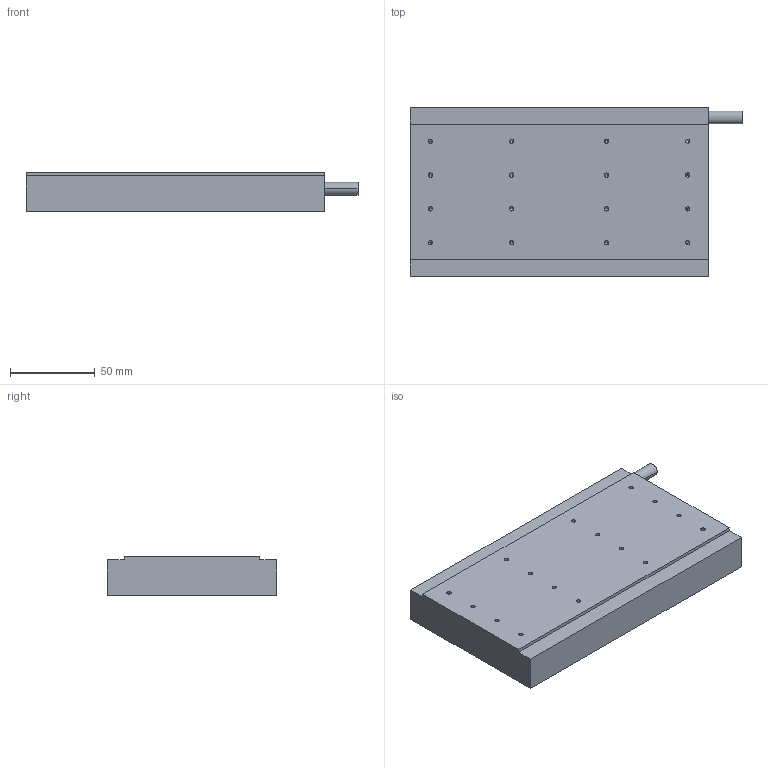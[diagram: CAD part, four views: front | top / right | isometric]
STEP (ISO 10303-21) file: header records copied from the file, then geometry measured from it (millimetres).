
FILE_DESCRIPTION (( 'STEP AP214' ), '1' );
FILE_NAME ('D-CJM080D.STEP', '2025-09-05T11:20:25', ( '' ), ( '' ), 'SwSTEP 2.0', 'SolidWorks 2016', '' );
FILE_SCHEMA (( 'AUTOMOTIVE_DESIGN' ));
Length unit declared in the file: millimetre
Products named in the file (1): D-CJM080D
Bounding box: 196 x 100 x 23.2 mm (x, y, z)
Volume: 401545.8 mm3; surface area: 49391.1 mm2
Topology: 1 solids, 1 shells, 101 faces, 246 edges, 128 vertices
Faces by surface type: cone 48, cylinder 42, plane 11
Entity records: 3078 total; most frequent: DIRECTION 502, CARTESIAN_POINT 436, ORIENTED_EDGE 412, EDGE_CURVE 206, AXIS2_PLACEMENT_3D 194, VERTEX_POINT 128, EDGE_LOOP 122, LINE 114
